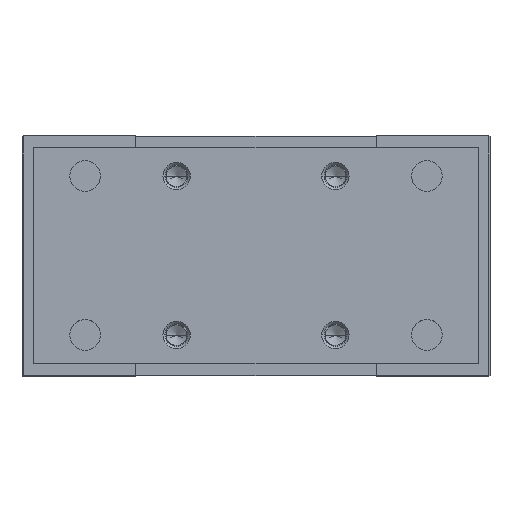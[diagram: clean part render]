
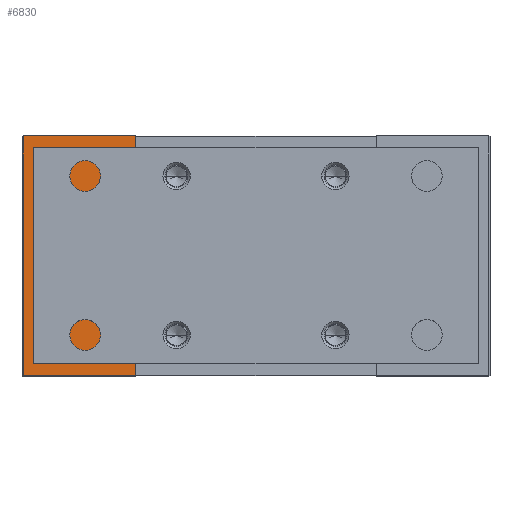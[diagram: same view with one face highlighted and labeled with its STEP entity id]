
A CAD part, top view. The second image highlights one B-rep face of the part: STEP entity #6830.
In plain terms, the highlighted planar face has unit normal (0, 0, 1).
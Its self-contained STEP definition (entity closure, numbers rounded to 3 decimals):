
#487 = LINE ( 'NONE', #1305, #6869 ) ;
#830 = ORIENTED_EDGE ( 'NONE', *, *, #5295, .F. ) ;
#860 = CARTESIAN_POINT ( 'NONE',  ( -42., 0., 71. ) ) ;
#873 = LINE ( 'NONE', #4214, #4435 ) ;
#1098 = ORIENTED_EDGE ( 'NONE', *, *, #6208, .T. ) ;
#1126 = CIRCLE ( 'NONE', #7101, 10. ) ;
#1305 = CARTESIAN_POINT ( 'NONE',  ( -68.5, 35., 71. ) ) ;
#1474 = DIRECTION ( 'NONE',  ( 1., 0., 0. ) ) ;
#1591 = LINE ( 'NONE', #9834, #2289 ) ;
#1709 = EDGE_CURVE ( 'NONE', #10464, #9342, #1591, .T. ) ;
#2139 = CARTESIAN_POINT ( 'NONE',  ( -35.25, 35., 71. ) ) ;
#2227 = DIRECTION ( 'NONE',  ( 1., 0., 0. ) ) ;
#2289 = VECTOR ( 'NONE', #4021, 1000. ) ;
#2413 = ORIENTED_EDGE ( 'NONE', *, *, #1709, .F. ) ;
#2512 = CARTESIAN_POINT ( 'NONE',  ( -68.2, 35., 71. ) ) ;
#2776 = DIRECTION ( 'NONE',  ( 0., 0., -1. ) ) ;
#2924 = EDGE_CURVE ( 'NONE', #6211, #9342, #6335, .T. ) ;
#3067 = CARTESIAN_POINT ( 'NONE',  ( -35.25, -35., 71. ) ) ;
#3190 = VECTOR ( 'NONE', #2227, 1000. ) ;
#3272 = DIRECTION ( 'NONE',  ( 0., 0., 1. ) ) ;
#3403 = CIRCLE ( 'NONE', #7980, 10. ) ;
#3685 = ORIENTED_EDGE ( 'NONE', *, *, #2924, .T. ) ;
#4021 = DIRECTION ( 'NONE',  ( 0., -1., 0. ) ) ;
#4086 = EDGE_CURVE ( 'NONE', #9005, #5503, #1126, .T. ) ;
#4173 = EDGE_CURVE ( 'NONE', #5503, #9005, #3403, .T. ) ;
#4214 = CARTESIAN_POINT ( 'NONE',  ( -68.2, 70., 71. ) ) ;
#4416 = DIRECTION ( 'NONE',  ( 0., -1., 0. ) ) ;
#4435 = VECTOR ( 'NONE', #6849, 1000. ) ;
#4529 = PLANE ( 'NONE',  #5716 ) ;
#5295 = EDGE_CURVE ( 'NONE', #7750, #10464, #487, .T. ) ;
#5503 = VERTEX_POINT ( 'NONE', #860 ) ;
#5716 = AXIS2_PLACEMENT_3D ( 'NONE', #9470, #2776, #4416 ) ;
#6073 = FACE_OUTER_BOUND ( 'NONE', #10265, .T. ) ;
#6121 = FACE_BOUND ( 'NONE', #8038, .T. ) ;
#6208 = EDGE_CURVE ( 'NONE', #7750, #6211, #873, .T. ) ;
#6211 = VERTEX_POINT ( 'NONE', #10035 ) ;
#6287 = DIRECTION ( 'NONE',  ( 0., 0., 1. ) ) ;
#6335 = LINE ( 'NONE', #10458, #3190 ) ;
#6717 = CARTESIAN_POINT ( 'NONE',  ( -52., 0., 71. ) ) ;
#6830 = ADVANCED_FACE ( 'NONE', ( #6073, #6121 ), #4529, .F. ) ;
#6849 = DIRECTION ( 'NONE',  ( 0., -1., 0. ) ) ;
#6869 = VECTOR ( 'NONE', #1474, 1000. ) ;
#6875 = ORIENTED_EDGE ( 'NONE', *, *, #4173, .F. ) ;
#7101 = AXIS2_PLACEMENT_3D ( 'NONE', #10569, #6287, #7175 ) ;
#7175 = DIRECTION ( 'NONE',  ( 1., 0., 0. ) ) ;
#7750 = VERTEX_POINT ( 'NONE', #2512 ) ;
#7980 = AXIS2_PLACEMENT_3D ( 'NONE', #6717, #3272, #9196 ) ;
#8038 = EDGE_LOOP ( 'NONE', ( #8932, #6875 ) ) ;
#8401 = CARTESIAN_POINT ( 'NONE',  ( -62., 0., 71. ) ) ;
#8932 = ORIENTED_EDGE ( 'NONE', *, *, #4086, .F. ) ;
#9005 = VERTEX_POINT ( 'NONE', #8401 ) ;
#9196 = DIRECTION ( 'NONE',  ( 1., 0., 0. ) ) ;
#9342 = VERTEX_POINT ( 'NONE', #3067 ) ;
#9470 = CARTESIAN_POINT ( 'NONE',  ( -68.5, 35., 71. ) ) ;
#9834 = CARTESIAN_POINT ( 'NONE',  ( -35.25, 35., 71. ) ) ;
#10035 = CARTESIAN_POINT ( 'NONE',  ( -68.2, -35., 71. ) ) ;
#10265 = EDGE_LOOP ( 'NONE', ( #830, #1098, #3685, #2413 ) ) ;
#10458 = CARTESIAN_POINT ( 'NONE',  ( -68.5, -35., 71. ) ) ;
#10464 = VERTEX_POINT ( 'NONE', #2139 ) ;
#10569 = CARTESIAN_POINT ( 'NONE',  ( -52., 0., 71. ) ) ;
